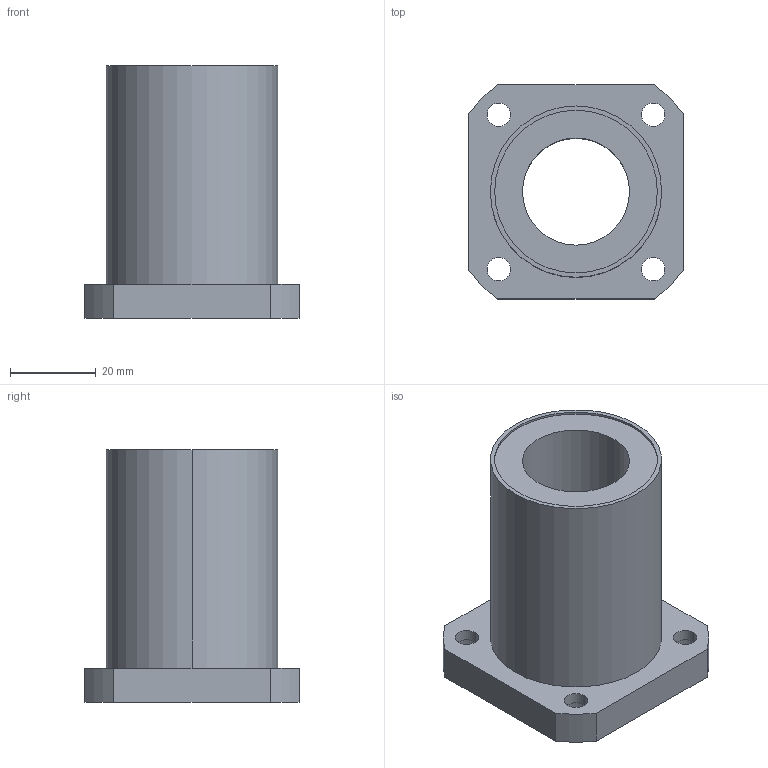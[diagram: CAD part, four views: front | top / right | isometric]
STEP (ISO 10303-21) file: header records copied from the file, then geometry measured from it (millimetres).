
FILE_DESCRIPTION((''),'2;1');
FILE_NAME('C:\Documents and Settings\ｿﾀﾀ蠑ｷ1\ｹﾙﾅﾁ ﾈｭｸ饅\ｺﾎﾇｰﾆﾄﾀﾏ\ﾁｦﾇｰ\LMK__UU\LMK25UU.stp','2005-06-15T09:48:50',('ｿﾀﾀ蠑ｷ1'),(''),'Autodesk Inventor 9','Autodesk Inventor 9','');
FILE_SCHEMA(('AUTOMOTIVE_DESIGN { 1 0 10303 214 1 1 1 1 }'));
Length unit declared in the file: millimetre
Products named in the file (1): LMK__
Bounding box: 50 x 50 x 59 mm (x, y, z)
Volume: 51683.6 mm3; surface area: 17076 mm2
Topology: 1 solids, 1 shells, 44 faces, 102 edges, 68 vertices
Faces by surface type: cylinder 30, plane 14
Entity records: 1329 total; most frequent: DIRECTION 252, CARTESIAN_POINT 215, ORIENTED_EDGE 204, AXIS2_PLACEMENT_3D 105, EDGE_CURVE 102, VERTEX_POINT 68, EDGE_LOOP 62, CIRCLE 60
